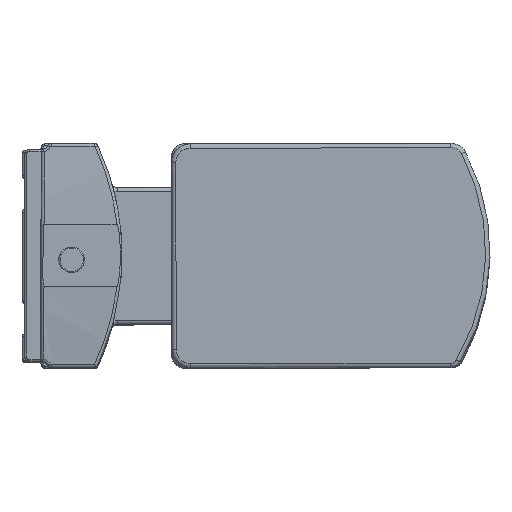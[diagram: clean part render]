
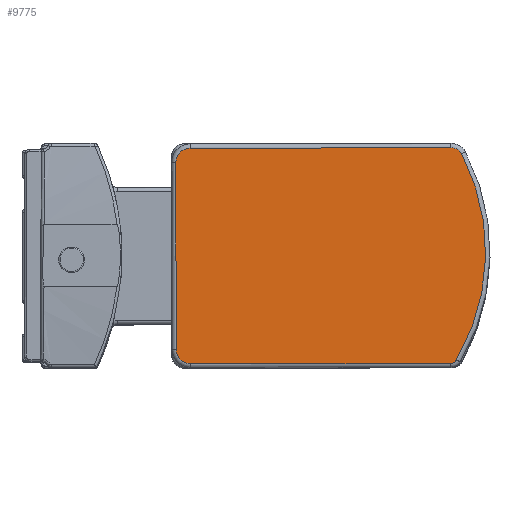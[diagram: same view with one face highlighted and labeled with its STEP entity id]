
A CAD part, top view. The second image highlights one B-rep face of the part: STEP entity #9775.
In plain terms, the highlighted planar face has unit normal (0, 0, 1) as drawn and (0, 0, -1) by its records, which use the part's own axes.
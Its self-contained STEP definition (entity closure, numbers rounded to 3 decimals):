
#9462=CARTESIAN_POINT('',(-438.042,345.427,0.0));
#9463=VERTEX_POINT('',#9462);
#9481=CARTESIAN_POINT('',(-429.075,15.129,0.0));
#9482=VERTEX_POINT('',#9481);
#9483=CARTESIAN_POINT('',(-136.505,188.342,0.0));
#9484=DIRECTION('',(0.0,0.0,1.0));
#9485=DIRECTION('',(-1.,-0.027,0.0));
#9486=AXIS2_PLACEMENT_3D('',#9483,#9484,#9485);
#9487=CIRCLE('',#9486,340.);
#9488=EDGE_CURVE('',#9463,#9482,#9487,.T.);
#9515=CARTESIAN_POINT('',(-420.977,355.407,0.0));
#9516=VERTEX_POINT('',#9515);
#9525=CARTESIAN_POINT('',(-2.503,355.407,0.0));
#9526=VERTEX_POINT('',#9525);
#9534=CARTESIAN_POINT('',(-2.503,355.407,0.0));
#9535=DIRECTION('',(-1.0,0.0,0.0));
#9536=VECTOR('',#9535,418.473);
#9537=LINE('',#9534,#9536);
#9538=EDGE_CURVE('',#9526,#9516,#9537,.T.);
#9550=CARTESIAN_POINT('',(-420.977,335.827,0.0));
#9551=DIRECTION('',(0.0,0.0,1.));
#9552=DIRECTION('',(-0.507,0.862,0.0));
#9553=AXIS2_PLACEMENT_3D('',#9550,#9551,#9552);
#9554=CIRCLE('',#9553,19.58);
#9555=EDGE_CURVE('',#9516,#9463,#9554,.T.);
#9568=CARTESIAN_POINT('',(20.497,332.407,0.0));
#9569=VERTEX_POINT('',#9568);
#9577=CARTESIAN_POINT('',(-2.503,332.407,0.0));
#9578=DIRECTION('',(0.0,0.0,1.0));
#9579=DIRECTION('',(0.707,0.707,0.0));
#9580=AXIS2_PLACEMENT_3D('',#9577,#9578,#9579);
#9581=CIRCLE('',#9580,23.);
#9582=EDGE_CURVE('',#9569,#9526,#9581,.T.);
#9602=CARTESIAN_POINT('',(20.497,32.407,0.0));
#9603=VERTEX_POINT('',#9602);
#9611=CARTESIAN_POINT('',(20.497,32.407,0.0));
#9612=DIRECTION('',(0.0,1.0,0.0));
#9613=VECTOR('',#9612,300.0);
#9614=LINE('',#9611,#9613);
#9615=EDGE_CURVE('',#9603,#9569,#9614,.T.);
#9632=CARTESIAN_POINT('',(-419.425,9.407,0.0));
#9633=VERTEX_POINT('',#9632);
#9643=CARTESIAN_POINT('',(-419.425,20.407,0.0));
#9644=DIRECTION('',(0.0,0.0,1.));
#9645=DIRECTION('',(-0.507,-0.862,0.0));
#9646=AXIS2_PLACEMENT_3D('',#9643,#9644,#9645);
#9647=CIRCLE('',#9646,11.);
#9648=EDGE_CURVE('',#9482,#9633,#9647,.T.);
#9660=CARTESIAN_POINT('',(-2.503,9.407,0.0));
#9661=VERTEX_POINT('',#9660);
#9669=CARTESIAN_POINT('',(-2.503,32.407,0.0));
#9670=DIRECTION('',(0.0,0.0,1.));
#9671=DIRECTION('',(0.707,-0.707,0.0));
#9672=AXIS2_PLACEMENT_3D('',#9669,#9670,#9671);
#9673=CIRCLE('',#9672,23.0);
#9674=EDGE_CURVE('',#9661,#9603,#9673,.T.);
#9693=CARTESIAN_POINT('',(-419.425,9.407,0.0));
#9694=DIRECTION('',(1.0,0.0,0.0));
#9695=VECTOR('',#9694,416.921);
#9696=LINE('',#9693,#9695);
#9697=EDGE_CURVE('',#9633,#9661,#9696,.T.);
#9760=CARTESIAN_POINT('',(-215.603,182.912,0.0));
#9761=DIRECTION('',(0.0,0.0,1.0));
#9762=DIRECTION('',(1.0,0.0,0.0));
#9763=AXIS2_PLACEMENT_3D('',#9760,#9761,#9762);
#9764=PLANE('',#9763);
#9765=ORIENTED_EDGE('',*,*,#9538,.F.);
#9766=ORIENTED_EDGE('',*,*,#9582,.F.);
#9767=ORIENTED_EDGE('',*,*,#9615,.F.);
#9768=ORIENTED_EDGE('',*,*,#9674,.F.);
#9769=ORIENTED_EDGE('',*,*,#9697,.F.);
#9770=ORIENTED_EDGE('',*,*,#9648,.F.);
#9771=ORIENTED_EDGE('',*,*,#9488,.F.);
#9772=ORIENTED_EDGE('',*,*,#9555,.F.);
#9773=EDGE_LOOP('',(#9765,#9766,#9767,#9768,#9769,#9770,#9771,#9772));
#9774=FACE_OUTER_BOUND('',#9773,.T.);
#9775=ADVANCED_FACE('',(#9774),#9764,.F.);
